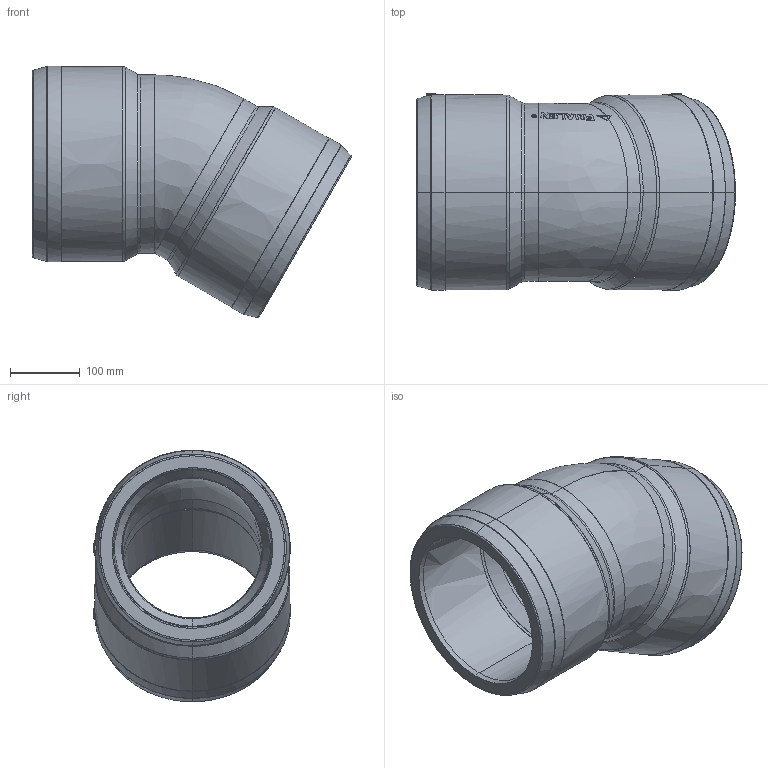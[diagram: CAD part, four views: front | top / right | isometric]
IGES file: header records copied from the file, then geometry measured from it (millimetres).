
Start section:  PTC IGES file: w30_d225_01.igs
Global section: file name: w30_d225_01.igs; native system: Pro/ENGINEER by Parametric Technology Corporation; preprocessor: 2011490; author: mtunjic; organization: Unknown; date: 20130808.103732; units: millimetre
Bounding box: 458.43 x 282.2 x 361.45 mm (x, y, z)
Surface area: 686628.6 mm2 (no closed solid volume)
Topology: 0 solids, 0 shells, 297 faces, 1468 edges, 1466 vertices
Faces by surface type: bspline 297
